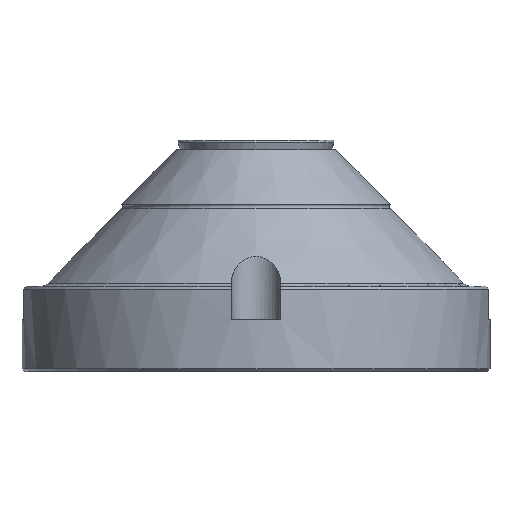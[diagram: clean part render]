
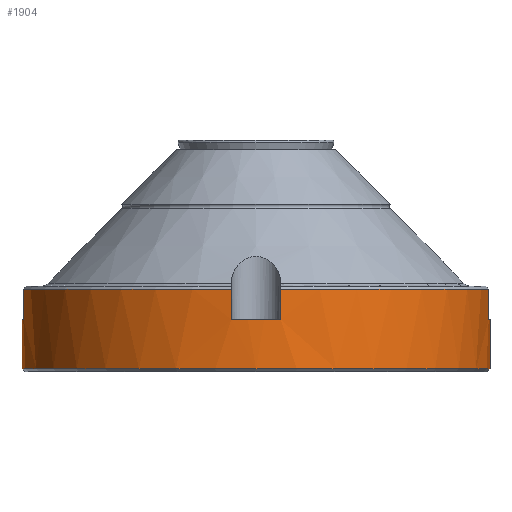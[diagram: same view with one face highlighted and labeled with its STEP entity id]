
A CAD part, front view. The second image highlights one B-rep face of the part: STEP entity #1904.
In plain terms, the highlighted cylindrical face has radius 60.325 mm (diameter 120.65 mm), a partial arc.
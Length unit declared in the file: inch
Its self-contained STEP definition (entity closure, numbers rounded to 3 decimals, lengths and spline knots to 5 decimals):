
#759=DIRECTION('',(0.,0.,-1.));
#760=VECTOR('',#759,0.31);
#761=CARTESIAN_POINT('',(-2.36181,-0.25,0.84));
#762=LINE('',#761,#760);
#763=CARTESIAN_POINT('',(0.,0.,0.84));
#764=DIRECTION('',(0.,0.,1.));
#765=DIRECTION('',(-0.994,-0.105,0.));
#766=AXIS2_PLACEMENT_3D('',#763,#764,#765);
#768=DIRECTION('',(0.,0.,-1.));
#769=VECTOR('',#768,0.31);
#770=CARTESIAN_POINT('',(-0.25,-2.36181,0.84));
#771=LINE('',#770,#769);
#772=CARTESIAN_POINT('',(0.,0.,0.53));
#773=DIRECTION('',(0.,0.,-1.));
#774=DIRECTION('',(0.105,-0.994,0.));
#775=AXIS2_PLACEMENT_3D('',#772,#773,#774);
#777=DIRECTION('',(0.,0.,-1.));
#778=VECTOR('',#777,0.31);
#779=CARTESIAN_POINT('',(0.25,-2.36181,0.84));
#780=LINE('',#779,#778);
#781=CARTESIAN_POINT('',(0.,0.,0.84));
#782=DIRECTION('',(0.,0.,1.));
#783=DIRECTION('',(0.105,-0.994,0.));
#784=AXIS2_PLACEMENT_3D('',#781,#782,#783);
#786=DIRECTION('',(0.,0.,-1.));
#787=VECTOR('',#786,0.31);
#788=CARTESIAN_POINT('',(2.36181,-0.25,0.84));
#789=LINE('',#788,#787);
#790=CARTESIAN_POINT('',(0.,0.,0.53));
#791=DIRECTION('',(0.,0.,-1.));
#792=DIRECTION('',(1.,0.,0.));
#793=AXIS2_PLACEMENT_3D('',#790,#791,#792);
#795=DIRECTION('',(0.,0.,1.));
#796=VECTOR('',#795,0.5);
#797=CARTESIAN_POINT('',(2.375,0.,0.03));
#798=LINE('',#797,#796);
#799=CARTESIAN_POINT('',(0.,0.,0.03));
#800=DIRECTION('',(0.,0.,1.));
#801=DIRECTION('',(-1.,0.,0.));
#802=AXIS2_PLACEMENT_3D('',#799,#800,#801);
#804=DIRECTION('',(0.,0.,1.));
#805=VECTOR('',#804,0.5);
#806=CARTESIAN_POINT('',(-2.375,0.,0.03));
#807=LINE('',#806,#805);
#808=CARTESIAN_POINT('',(0.,0.,0.53));
#809=DIRECTION('',(0.,0.,-1.));
#810=DIRECTION('',(-0.994,-0.105,0.));
#811=AXIS2_PLACEMENT_3D('',#808,#809,#810);
#1090=CARTESIAN_POINT('',(2.375,0.,0.03));
#1091=CARTESIAN_POINT('',(-2.375,0.,0.03));
#1092=VERTEX_POINT('',#1090);
#1093=VERTEX_POINT('',#1091);
#1182=CARTESIAN_POINT('',(-2.36181,-0.25,0.84));
#1183=CARTESIAN_POINT('',(-2.36181,-0.25,0.53));
#1184=VERTEX_POINT('',#1182);
#1185=VERTEX_POINT('',#1183);
#1186=CARTESIAN_POINT('',(0.25,-2.36181,0.84));
#1187=CARTESIAN_POINT('',(0.25,-2.36181,0.53));
#1188=VERTEX_POINT('',#1186);
#1189=VERTEX_POINT('',#1187);
#1190=CARTESIAN_POINT('',(-0.25,-2.36181,0.84));
#1191=CARTESIAN_POINT('',(-0.25,-2.36181,0.53));
#1192=VERTEX_POINT('',#1190);
#1193=VERTEX_POINT('',#1191);
#1194=CARTESIAN_POINT('',(2.36181,-0.25,0.84));
#1195=CARTESIAN_POINT('',(2.36181,-0.25,0.53));
#1196=VERTEX_POINT('',#1194);
#1197=VERTEX_POINT('',#1195);
#1202=CARTESIAN_POINT('',(-2.375,0.,0.53));
#1203=VERTEX_POINT('',#1202);
#1204=CARTESIAN_POINT('',(2.375,0.,0.53));
#1205=VERTEX_POINT('',#1204);
#1884=CARTESIAN_POINT('',(0.,0.,2.4675));
#1885=DIRECTION('',(0.,0.,-1.));
#1886=DIRECTION('',(1.,0.,0.));
#1887=AXIS2_PLACEMENT_3D('',#1884,#1885,#1886);
#1888=CYLINDRICAL_SURFACE('',#1887,2.375);
#1889=ORIENTED_EDGE('',*,*,#1785,.F.);
#1890=ORIENTED_EDGE('',*,*,#1805,.T.);
#1891=ORIENTED_EDGE('',*,*,#1836,.T.);
#1892=ORIENTED_EDGE('',*,*,#1439,.F.);
#1893=ORIENTED_EDGE('',*,*,#1874,.F.);
#1894=ORIENTED_EDGE('',*,*,#1819,.T.);
#1895=ORIENTED_EDGE('',*,*,#1585,.T.);
#1896=ORIENTED_EDGE('',*,*,#1417,.F.);
#1897=ORIENTED_EDGE('',*,*,#1325,.F.);
#1899=ORIENTED_EDGE('',*,*,#1898,.F.);
#1900=ORIENTED_EDGE('',*,*,#1322,.T.);
#1901=ORIENTED_EDGE('',*,*,#1461,.F.);
#1902=EDGE_LOOP('',(#1889,#1890,#1891,#1892,#1893,#1894,#1895,#1896,#1897,#1899,
#1900,#1901));
#1903=FACE_OUTER_BOUND('',#1902,.F.);
#1904=ADVANCED_FACE('',(#1903),#1888,.T.);
#767=CIRCLE('',#766,2.375);
#776=CIRCLE('',#775,2.375);
#785=CIRCLE('',#784,2.375);
#794=CIRCLE('',#793,2.375);
#803=CIRCLE('',#802,2.375);
#812=CIRCLE('',#811,2.375);
#1322=EDGE_CURVE('',#1093,#1203,#807,.T.);
#1325=EDGE_CURVE('',#1092,#1205,#798,.T.);
#1417=EDGE_CURVE('',#1205,#1197,#794,.T.);
#1439=EDGE_CURVE('',#1189,#1193,#776,.T.);
#1461=EDGE_CURVE('',#1185,#1203,#812,.T.);
#1585=EDGE_CURVE('',#1196,#1197,#789,.T.);
#1785=EDGE_CURVE('',#1184,#1185,#762,.T.);
#1805=EDGE_CURVE('',#1184,#1192,#767,.T.);
#1819=EDGE_CURVE('',#1188,#1196,#785,.T.);
#1836=EDGE_CURVE('',#1192,#1193,#771,.T.);
#1874=EDGE_CURVE('',#1188,#1189,#780,.T.);
#1898=EDGE_CURVE('',#1093,#1092,#803,.T.);
